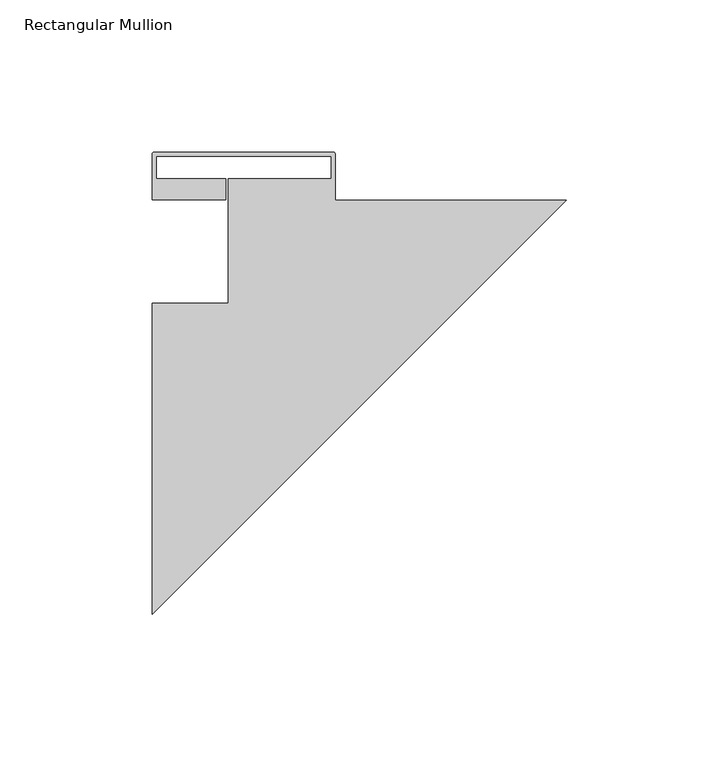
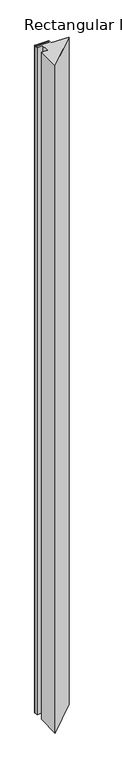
"""IFC4 building model written with IfcOpenShell, lengths in millimetres: member geometry, Rectangular Mullion : FMO053...FM60-11_L."""

from ifc_helpers import new_model, si_unit, point, frame, frame_2d, origin, place, context, project, spatial, polyline, circle_curve, trimmed, segment, composite_curve, outline, extrude, source, transform, mapped, element, save


def rectangular_mullion_1fb9d1cf(model_context):
    return source(origin(), model_context, "Body", "SweptSolid", [
        extrude(outline(composite_curve([segment(polyline([(-134.6454068, 31.1117899), (-134.6454068, 23.7476589), (-111.7712064, 23.7476589), (-111.7712064, 16.8), (-135.9454068, 16.8), (-135.9454068, 31.9117899)]), True, "CONTINUOUS"), segment(trimmed(circle_curve(frame_2d((-135.4133179, 31.9117899)), 0.5320889), [point((-135.9454068, 31.9117899))], [point((-135.2313328, 32.4117899))], False, "CARTESIAN"), True, "CONTINUOUS"), segment(polyline([(-135.2313328, 32.4117899), (-76.6089292, 32.4117899)]), True, "CONTINUOUS"), segment(trimmed(circle_curve(frame_2d((-76.4655565, 31.9117899)), 0.5201497), [point((-76.6089292, 32.4117899))], [point((-75.9454068, 31.9117899))], False, "CARTESIAN"), True, "CONTINUOUS"), segment(polyline([(-75.9454068, 31.9117899), (-75.9454068, 16.7743874), (0.0, 16.7743874), (-135.9712064, -119.196819), (-135.9712064, -17.2), (-110.9712064, -17.2), (-110.9712064, 23.7476589), (-77.2454068, 23.7476589), (-77.2454068, 31.1117899), (-134.6454068, 31.1117899)]), True, "CONTINUOUS")], self_intersect=False)), frame((0.0, 0.0, -3000.0), z_axis=(0.0, 0.0, 1.0), x_axis=(1.0, 0.0, 0.0)), (0.0, 0.0, 1.0), 3000.0),
    ])


if __name__ == "__main__":
    model = new_model("IFC4")
    model_context = context("Model", 3, world=origin())
    ifc_project = project(units=[si_unit("LENGTHUNIT", "METRE", prefix="MILLI")], contexts=[model_context])
    site = spatial("IfcSite", under=ifc_project)
    building = spatial("IfcBuilding", under=site)
    placement = place(None, origin())
    rectangular_mullion_shape = rectangular_mullion_1fb9d1cf(model_context)
    element("IfcMember", 1, ObjectType="Rectangular Mullion : FMO053...FM60-11_L", at=placement, inside=building, context=model_context, shape_type="MappedRepresentation", body=[
        mapped(rectangular_mullion_shape, transform((0.0, 0.0, 0.0), x_axis=(1.0, 0.0, 0.0), y_axis=(0.0, 1.0, 0.0), z_axis=(0.0, 0.0, 1.0))),
    ])
    save(model, "model.ifc")
